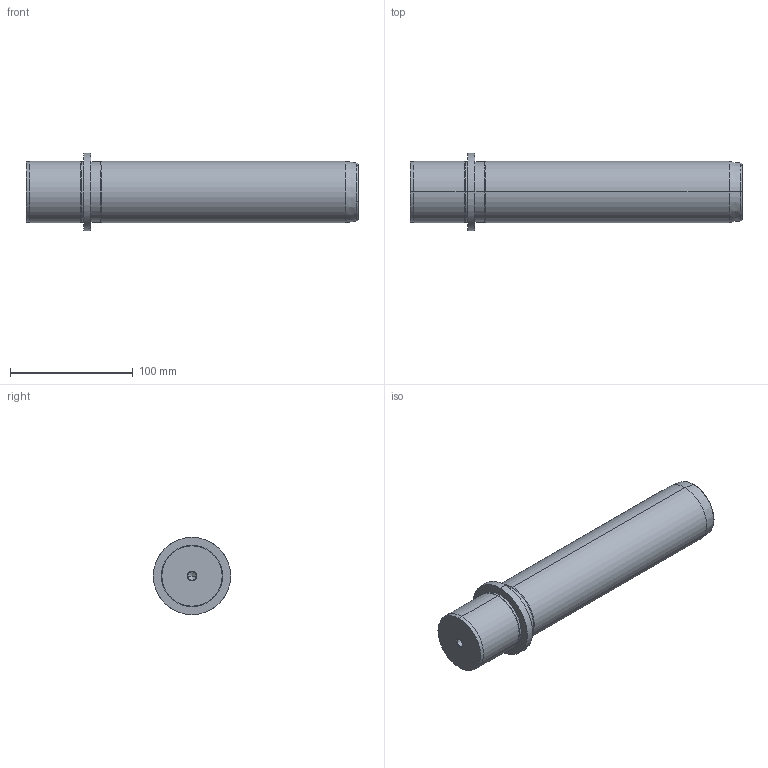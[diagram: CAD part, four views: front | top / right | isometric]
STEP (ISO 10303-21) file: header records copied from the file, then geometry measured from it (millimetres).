
FILE_DESCRIPTION(('CATIA V5 STEP Exchange'),'2;1');
FILE_NAME('C:\Users\Utente\Desktop\IO LAVORO\3D X SITO CF\X SITO\719\719-50x224.stp','2021-01-03T15:03:52+00:00',('none'),('none'),'CATIA Version 5 Release 20 GA (IN-10)','CATIA V5 STEP AP203','none');
FILE_SCHEMA(('CONFIG_CONTROL_DESIGN'));
Length unit declared in the file: millimetre
Products named in the file (1): 719-50x224
Bounding box: 271 x 63 x 63 mm (x, y, z)
Volume: 535164.4 mm3; surface area: 49852.1 mm2
Topology: 1 solids, 1 shells, 36 faces, 100 edges, 66 vertices
Faces by surface type: cone 16, cylinder 14, plane 4, torus 2
Entity records: 1267 total; most frequent: CARTESIAN_POINT 334, ORIENTED_EDGE 192, DIRECTION 159, EDGE_CURVE 96, AXIS2_PLACEMENT_3D 94, VERTEX_POINT 66, CIRCLE 57, EDGE_LOOP 40
